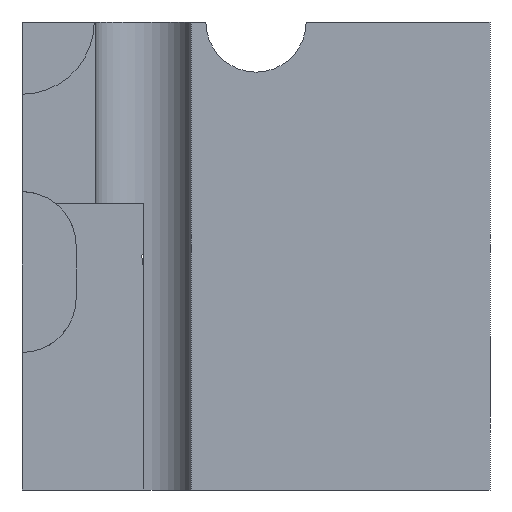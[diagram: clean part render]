
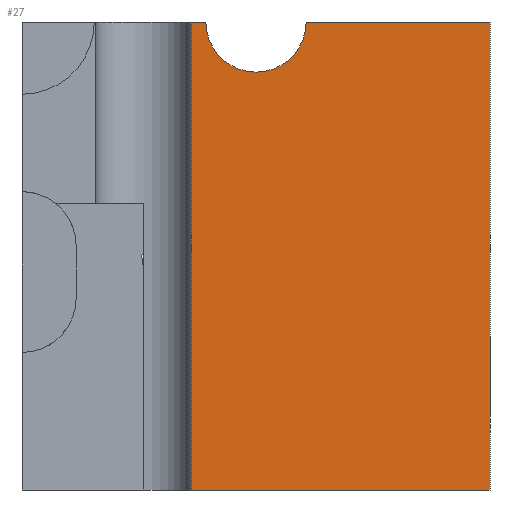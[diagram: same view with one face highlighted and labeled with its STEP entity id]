
A CAD part, front view. The second image highlights one B-rep face of the part: STEP entity #27.
In plain terms, the highlighted planar face has unit normal (0, -1, 0).
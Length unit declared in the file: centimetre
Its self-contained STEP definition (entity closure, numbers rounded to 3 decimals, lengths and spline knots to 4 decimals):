
#6 = VERTEX_POINT ( 'NONE', #602 ) ;
#27 = ADVANCED_FACE ( 'NONE', ( #335 ), #1190, .F. ) ;
#59 = ORIENTED_EDGE ( 'NONE', *, *, #1140, .T. ) ;
#87 = VECTOR ( 'NONE', #296, 100. ) ;
#93 = VECTOR ( 'NONE', #666, 100. ) ;
#97 = LINE ( 'NONE', #172, #364 ) ;
#168 = DIRECTION ( 'NONE',  ( 0., 0., 1. ) ) ;
#172 = CARTESIAN_POINT ( 'NONE',  ( 0., 0., 1000. ) ) ;
#177 = CARTESIAN_POINT ( 'NONE',  ( 1000., 0., 0. ) ) ;
#296 = DIRECTION ( 'NONE',  ( 0., 0., -1. ) ) ;
#304 = CARTESIAN_POINT ( 'NONE',  ( 0., 0., 1000. ) ) ;
#310 = VERTEX_POINT ( 'NONE', #177 ) ;
#335 = FACE_OUTER_BOUND ( 'NONE', #1027, .T. ) ;
#339 = EDGE_CURVE ( 'NONE', #6, #1104, #97, .T. ) ;
#340 = CARTESIAN_POINT ( 'NONE',  ( 500., 0., 1000. ) ) ;
#364 = VECTOR ( 'NONE', #382, 100. ) ;
#377 = EDGE_CURVE ( 'NONE', #826, #310, #557, .T. ) ;
#382 = DIRECTION ( 'NONE',  ( 1., 0., 0. ) ) ;
#399 = LINE ( 'NONE', #658, #93 ) ;
#465 = AXIS2_PLACEMENT_3D ( 'NONE', #340, #1081, #592 ) ;
#557 = LINE ( 'NONE', #1202, #1175 ) ;
#592 = DIRECTION ( 'NONE',  ( 0., 0., 1. ) ) ;
#602 = CARTESIAN_POINT ( 'NONE',  ( 362.1407, 0., 1000. ) ) ;
#612 = CARTESIAN_POINT ( 'NONE',  ( 0., 0., 1000. ) ) ;
#621 = ORIENTED_EDGE ( 'NONE', *, *, #339, .F. ) ;
#658 = CARTESIAN_POINT ( 'NONE',  ( 362.1407, 0., 1000. ) ) ;
#660 = EDGE_CURVE ( 'NONE', #6, #826, #399, .T. ) ;
#666 = DIRECTION ( 'NONE',  ( 0., 0., -1. ) ) ;
#684 = VERTEX_POINT ( 'NONE', #966 ) ;
#709 = EDGE_CURVE ( 'NONE', #1080, #684, #1150, .T. ) ;
#718 = ORIENTED_EDGE ( 'NONE', *, *, #377, .T. ) ;
#813 = CIRCLE ( 'NONE', #465, 107.0639 ) ;
#826 = VERTEX_POINT ( 'NONE', #868 ) ;
#868 = CARTESIAN_POINT ( 'NONE',  ( 362.1407, 0., 0. ) ) ;
#929 = DIRECTION ( 'NONE',  ( 1., 0., 0. ) ) ;
#963 = CARTESIAN_POINT ( 'NONE',  ( 1000., 0., 1000. ) ) ;
#966 = CARTESIAN_POINT ( 'NONE',  ( 1000., 0., 1000. ) ) ;
#1003 = AXIS2_PLACEMENT_3D ( 'NONE', #612, #1093, #168 ) ;
#1027 = EDGE_LOOP ( 'NONE', ( #621, #1226, #718, #1213, #1205, #59 ) ) ;
#1048 = LINE ( 'NONE', #963, #87 ) ;
#1056 = DIRECTION ( 'NONE',  ( 1., 0., 0. ) ) ;
#1080 = VERTEX_POINT ( 'NONE', #1220 ) ;
#1081 = DIRECTION ( 'NONE',  ( 0., 1., 0. ) ) ;
#1093 = DIRECTION ( 'NONE',  ( 0., 1., 0. ) ) ;
#1104 = VERTEX_POINT ( 'NONE', #1155 ) ;
#1118 = EDGE_CURVE ( 'NONE', #684, #310, #1048, .T. ) ;
#1140 = EDGE_CURVE ( 'NONE', #1080, #1104, #813, .T. ) ;
#1150 = LINE ( 'NONE', #304, #1183 ) ;
#1155 = CARTESIAN_POINT ( 'NONE',  ( 392.9361, 0., 1000. ) ) ;
#1175 = VECTOR ( 'NONE', #929, 100. ) ;
#1183 = VECTOR ( 'NONE', #1056, 100. ) ;
#1190 = PLANE ( 'NONE',  #1003 ) ;
#1202 = CARTESIAN_POINT ( 'NONE',  ( 0., 0., 0. ) ) ;
#1205 = ORIENTED_EDGE ( 'NONE', *, *, #709, .F. ) ;
#1213 = ORIENTED_EDGE ( 'NONE', *, *, #1118, .F. ) ;
#1220 = CARTESIAN_POINT ( 'NONE',  ( 607.0639, 0., 1000. ) ) ;
#1226 = ORIENTED_EDGE ( 'NONE', *, *, #660, .T. ) ;
